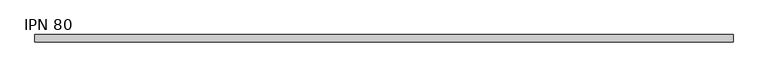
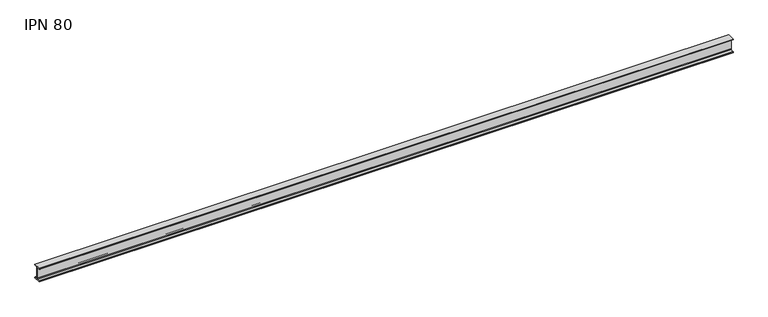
"""IFC4 building model written with IfcOpenShell, lengths in millimetres: beam geometry, IPN - Secciones en I con alas cónicas : IPN 80."""

from ifc_helpers import new_model, si_unit, point, frame, frame_2d, origin, place, context, project, spatial, polyline, circle_curve, trimmed, segment, composite_curve, outline, extrude, source, transform, mapped, element, save


def ipn_80_d1422b3e(model_context):
    return source(origin(), model_context, "Body", "SweptSolid", [
        extrude(outline(composite_curve([segment(polyline([(21.0, 40.0), (21.0, 37.5704306)]), True, "CONTINUOUS"), segment(trimmed(circle_curve(frame_2d((18.7, 37.5704306)), 2.3), [point((21.0, 37.5704306))], [point((19.01889, 35.2926446))], False, "CARTESIAN"), True, "CONTINUOUS"), segment(polyline([(19.01889, 35.2926446), (5.3092734, 33.3732983)]), True, "CONTINUOUS"), segment(trimmed(circle_curve(frame_2d((5.85, 29.5109655)), 3.9), [point((5.3092734, 33.3732983))], [point((1.95, 29.5109655))], True, "CARTESIAN"), True, "CONTINUOUS"), segment(polyline([(1.95, 29.5109655), (1.95, -29.5109655)]), True, "CONTINUOUS"), segment(trimmed(circle_curve(frame_2d((5.85, -29.5109655)), 3.9), [point((1.95, -29.5109655))], [point((5.3092734, -33.3732983))], True, "CARTESIAN"), True, "CONTINUOUS"), segment(polyline([(5.3092734, -33.3732983), (19.01889, -35.2926446)]), True, "CONTINUOUS"), segment(trimmed(circle_curve(frame_2d((18.7, -37.5704306)), 2.3), [point((19.01889, -35.2926446))], [point((21.0, -37.5704306))], False, "CARTESIAN"), True, "CONTINUOUS"), segment(polyline([(21.0, -37.5704306), (21.0, -40.0), (-21.0, -40.0), (-21.0, -37.5704306)]), True, "CONTINUOUS"), segment(trimmed(circle_curve(frame_2d((-18.7, -37.5704306)), 2.3), [point((-21.0, -37.5704306))], [point((-19.01889, -35.2926446))], False, "CARTESIAN"), True, "CONTINUOUS"), segment(polyline([(-19.01889, -35.2926446), (-5.3092734, -33.3732983)]), True, "CONTINUOUS"), segment(trimmed(circle_curve(frame_2d((-5.85, -29.5109655)), 3.9), [point((-5.3092734, -33.3732983))], [point((-1.95, -29.5109655))], True, "CARTESIAN"), True, "CONTINUOUS"), segment(polyline([(-1.95, -29.5109655), (-1.95, 29.5109655)]), True, "CONTINUOUS"), segment(trimmed(circle_curve(frame_2d((-5.85, 29.5109655)), 3.9), [point((-1.95, 29.5109655))], [point((-5.3092734, 33.3732983))], True, "CARTESIAN"), True, "CONTINUOUS"), segment(polyline([(-5.3092734, 33.3732983), (-19.01889, 35.2926446)]), True, "CONTINUOUS"), segment(trimmed(circle_curve(frame_2d((-18.7, 37.5704306)), 2.3), [point((-19.01889, 35.2926446))], [point((-21.0, 37.5704306))], False, "CARTESIAN"), True, "CONTINUOUS"), segment(polyline([(-21.0, 37.5704306), (-21.0, 40.0), (21.0, 40.0)]), True, "CONTINUOUS")], self_intersect=False)), frame((-1948.0, 0.0, 0.0), z_axis=(1.0, 0.0, 0.0), x_axis=(0.0, 1.0, 0.0)), (0.0, 0.0, 1.0), 3909.0),
    ])


if __name__ == "__main__":
    model = new_model("IFC4")
    model_context = context("Model", 3, world=origin())
    ifc_project = project(units=[si_unit("LENGTHUNIT", "METRE", prefix="MILLI")], contexts=[model_context])
    site = spatial("IfcSite", under=ifc_project)
    building = spatial("IfcBuilding", under=site)
    placement = place(None, origin())
    ipn_80_shape = ipn_80_d1422b3e(model_context)
    element("IfcBeam", 1, ObjectType="IPN - Secciones en I con alas cónicas : IPN 80", at=placement, inside=building, context=model_context, shape_type="MappedRepresentation", body=[
        mapped(ipn_80_shape, transform((0.0, 0.0, 0.0), x_axis=(1.0, 0.0, 0.0), y_axis=(0.0, 1.0, 0.0), z_axis=(0.0, 0.0, 1.0))),
    ])
    save(model, "model.ifc")
